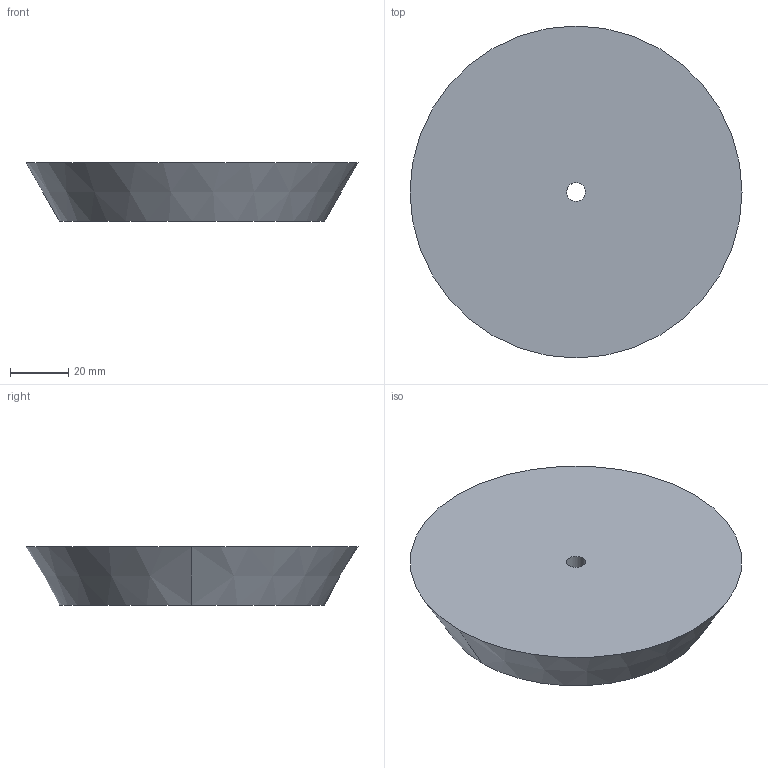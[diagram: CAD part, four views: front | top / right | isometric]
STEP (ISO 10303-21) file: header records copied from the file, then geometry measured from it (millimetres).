
FILE_DESCRIPTION(('CATIA V5 STEP Exchange'),'2;1');
FILE_NAME('C:\Users\andres.garcia\OneDrive - IQS\ASIGNATURAS\DAO\Controles\2223\c0\c1-BRUGUERA_Marcel-tapon.stp','2023-02-03T08:22:03+00:00',('none'),('none'),'CATIA Version 5-6 Release 2013 SP6','CATIA V5 STEP AP203','none');
FILE_SCHEMA(('CONFIG_CONTROL_DESIGN'));
Length unit declared in the file: millimetre
Products named in the file (1): c1-BRUGUERA_Marcel-tapon
Bounding box: 114 x 114 x 20 mm (x, y, z)
Volume: 164914.9 mm3; surface area: 24472.7 mm2
Topology: 1 solids, 1 shells, 6 faces, 12 edges, 8 vertices
Faces by surface type: cylinder 2, plane 2, cone 2
Entity records: 196 total; most frequent: CARTESIAN_POINT 26, ORIENTED_EDGE 24, DIRECTION 22, AXIS2_PLACEMENT_3D 14, EDGE_CURVE 12, CIRCLE 8, EDGE_LOOP 8, VERTEX_POINT 8
